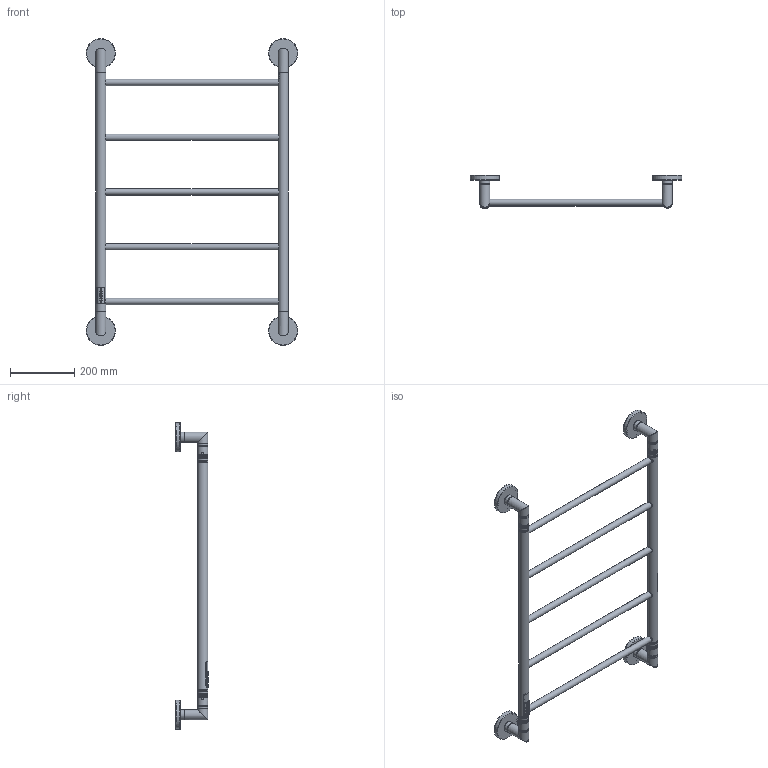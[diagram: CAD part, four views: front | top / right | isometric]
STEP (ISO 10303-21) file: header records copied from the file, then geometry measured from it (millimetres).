
FILE_DESCRIPTION(/* description */ ('Unknown'),/* implementation_level */ '2;1');
FILE_NAME(/* name */ 'NI1SS-R',/* time_stamp */ '2024-06-02T20:55:29+02:00',/* author */ ('Unknown'),/* organization */ ('Unknown'),/* preprocessor_version */ 'ST-DEVELOPER v18.102',/* originating_system */ 'Solid Edge',/* authorisation */ 'Unknown');
FILE_SCHEMA (('AUTOMOTIVE_DESIGN {1 0 10303 214 3 1 1}'));
Length unit declared in the file: millimetre
Products named in the file (15): NI-R-H-1 - Niklas pravý 1; NI-R-V-L-TR-32-1-740; NI-R-V-R-TR-32-1-740; NI-H-R-TR-20-1-548; BW-K-1 - Koleno horní BW; PD-R-1 - Rozeta; BW-K-TR-R - Trubka kolena u rozety; BW-K-TR-K - Trubka kolena u konektoru; BW-K-2 - Koleno spodní BW; PD-K-1 - Konektor 30x60; PD-K-2 - Konektor 30x60 s dírou pro kabel; Sestava p鷫p璯a鋀; PD-P-1 - Spodní díl pøepínaèe; PD-P-2 - Horní díl pøepínaèe; PD-P-3 - Kryt p鷫p璯a鋀
Assembly tree (25 placements, depth 3):
  NI-R-H-1 - Niklas pravý 1
    NI-R-V-L-TR-32-1-740
    NI-R-V-R-TR-32-1-740
    NI-H-R-TR-20-1-548  x5
    BW-K-1 - Koleno horní BW  x2
      PD-R-1 - Rozeta
      BW-K-TR-R - Trubka kolena u rozety
      BW-K-TR-K - Trubka kolena u konektoru
    BW-K-2 - Koleno spodní BW  x2
      PD-R-1 - Rozeta
      BW-K-TR-R - Trubka kolena u rozety
      BW-K-TR-K - Trubka kolena u konektoru
    PD-K-1 - Konektor 30x60  x3
    PD-K-2 - Konektor 30x60 s dírou pro kabel
    Sestava p鷫p璯a鋀
      PD-P-1 - Spodní díl pøepínaèe
      PD-P-2 - Horní díl pøepínaèe
      PD-P-3 - Kryt p鷫p璯a鋀
Bounding box: 657 x 101.64 x 952 mm (x, y, z)
Volume: 608128 mm3; surface area: 861780 mm2
Topology: 26 solids, 26 shells, 1008 faces, 2599 edges, 1649 vertices
Faces by surface type: cylinder 390, plane 390, torus 164, cone 24, bspline 22, sphere 18
Full cylindrical faces by diameter (mm): 2.4 x2, 3.4 x2, 4.3 x9, 5 x2, 5.2 x2, 5.5 x2, 12.5 x1, 18 x5, 20 x15, 21 x4, 23 x4, 25.1 x8, 26.1 x8, 28.5 x12, 29 x12, 29.5 x12, 30 x2, 32 x10, 81.8 x4, 87.2 x4, 91 x4
Entity records: 27709 total; most frequent: CARTESIAN_POINT 7652, ORIENTED_EDGE 3942, DIRECTION 3746, EDGE_CURVE 1971, AXIS2_PLACEMENT_3D 1439, VERTEX_POINT 1303, EDGE_LOOP 1042, FACE_BOUND 1042
